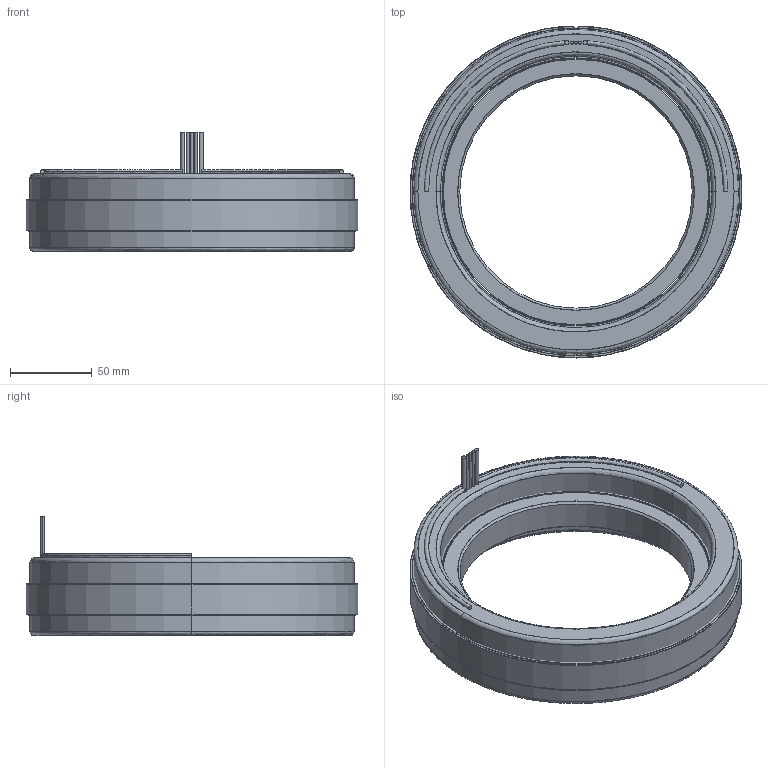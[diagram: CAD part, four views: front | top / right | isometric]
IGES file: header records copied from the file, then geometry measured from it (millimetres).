
Start section: SolidWorks IGES file using analytic representation for surfaces
Global section: file name: Z:\STANDARD STATOR ROTOR SETS\NEW DIRECT DRIVE MOTOR\8 OD 36S32P\6100326-01.IGS; native system: SolidWorks 2016; preprocessor: SolidWorks 2016; author: eng; date: 191023.162419; units: millimetre
Bounding box: 203.2 x 203.19 x 72.9 mm (x, y, z)
Surface area: 233310.1 mm2 (no closed solid volume)
Topology: 0 solids, 0 shells, 94 faces, 2568 edges, 2568 vertices
Faces by surface type: revolution 54, bspline 40
